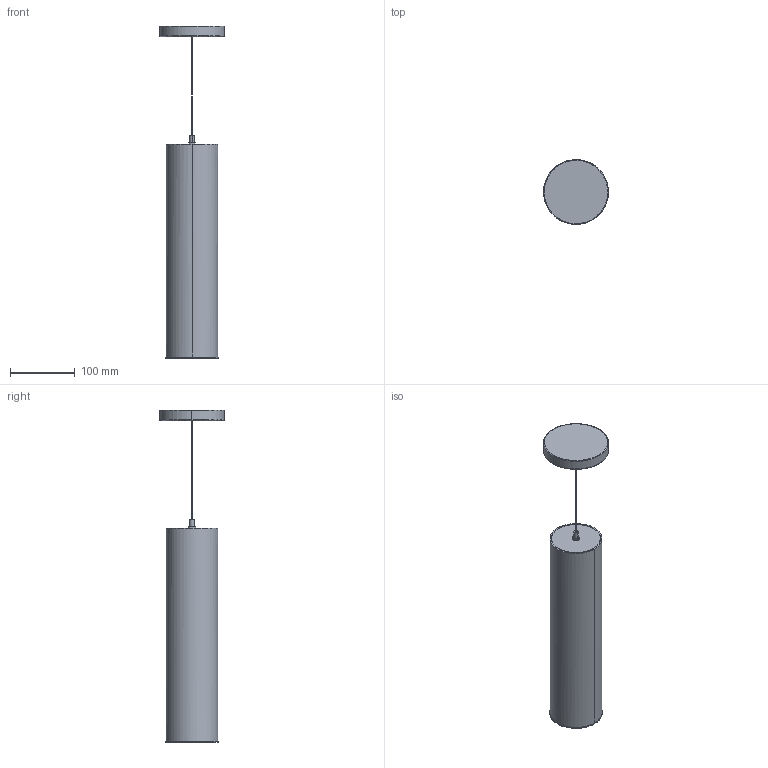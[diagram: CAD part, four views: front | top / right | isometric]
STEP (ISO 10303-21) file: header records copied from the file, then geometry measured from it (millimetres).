
FILE_DESCRIPTION(/* description */ (''),/* implementation_level */ '2;1');
FILE_NAME(/* name */ 'TAGORA 80 CEILING',/* time_stamp */ '2018-02-26T11:56:56+01:00',/* author */ (''),/* organization */ (''),/* preprocessor_version */ 'ST-DEVELOPER v15',/* originating_system */ '',/* authorisation */ '');
FILE_SCHEMA (('CONFIG_CONTROL_DESIGN'));
Length unit declared in the file: millimetre
Products named in the file (4): Document; X304300012_A; WME5391_B_MODEL; WME5388_B
Assembly tree (4 placements, depth 3):
  Document
    X304300012_A
    WME5391_B_MODEL
      WME5388_B  x2
Bounding box: 100 x 99.92 x 512.03 mm (x, y, z)
Volume: 307114.3 mm3; surface area: 243608.9 mm2
Topology: 8 solids, 14 shells, 302 faces, 1248 edges, 845 vertices
Faces by surface type: bspline 242, plane 60
Entity records: 25296 total; most frequent: CARTESIAN_POINT 18934, ORIENTED_EDGE 1838, EDGE_CURVE 1186, VERTEX_POINT 804, B_SPLINE_CURVE_WITH_KNOTS 694, EDGE_LOOP 489, ADVANCED_FACE 280, FACE_OUTER_BOUND 280
